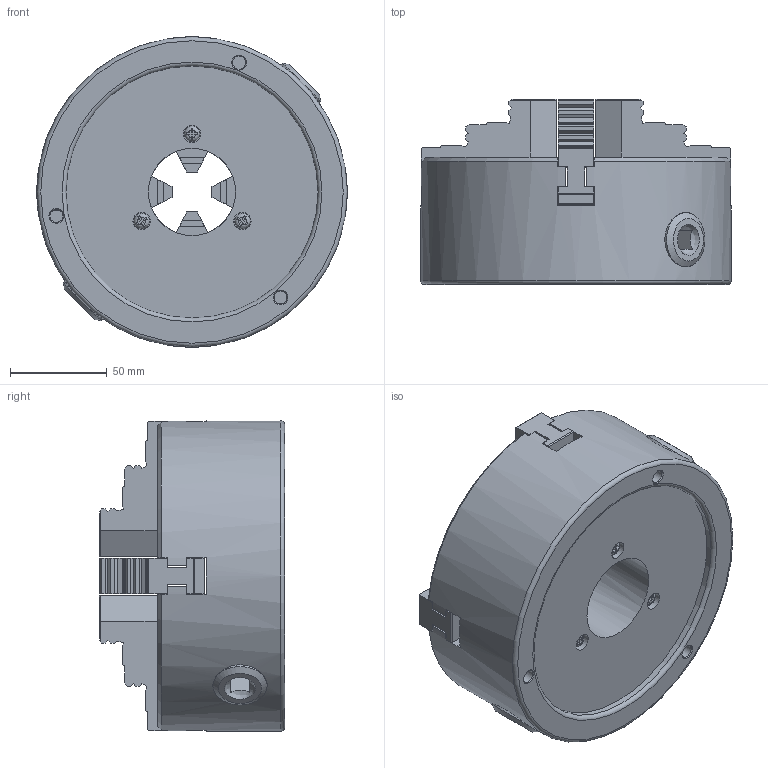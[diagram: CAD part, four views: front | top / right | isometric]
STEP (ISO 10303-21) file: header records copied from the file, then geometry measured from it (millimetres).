
FILE_DESCRIPTION(/* description */ (''),/* implementation_level */ '2;1');
FILE_NAME(/* name */ 'K12-160.stp',/* time_stamp */ '2025-10-16T11:29:44+03:00',/* author */ ('Arina Rekina'),/* organization */ (''),/* preprocessor_version */ 'ST-DEVELOPER v19.2',/* originating_system */ 'Autodesk Inventor 2024',/* authorisation */ '');
FILE_SCHEMA (('AUTOMOTIVE_DESIGN { 1 0 10303 214 3 1 1 }'));
Length unit declared in the file: millimetre
Products named in the file (3): K12-160; Часть 1; Часть 2 (2)
Assembly tree (5 placements, depth 2):
  K12-160
    Часть 1
    Часть 2 (2)  x4
Bounding box: 160 x 95.5 x 160 mm (x, y, z)
Volume: 1210482.4 mm3; surface area: 142241.1 mm2
Topology: 5 solids, 5 shells, 483 faces, 1363 edges, 901 vertices
Faces by surface type: plane 447, cylinder 16, cone 13, bspline 5, torus 2
Full cylindrical faces by diameter (mm): 6.7 x3, 8 x3, 9 x3, 45 x1, 130 x1, 160 x1
Entity records: 8071 total; most frequent: CARTESIAN_POINT 1904, ORIENTED_EDGE 1310, DIRECTION 1177, EDGE_CURVE 655, LINE 465, VECTOR 465, VERTEX_POINT 433, AXIS2_PLACEMENT_3D 356
